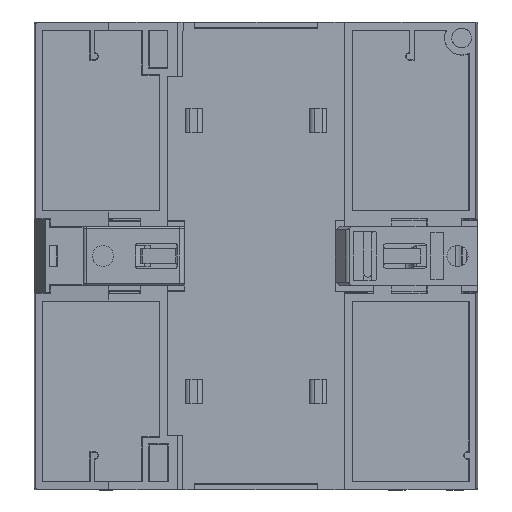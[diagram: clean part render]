
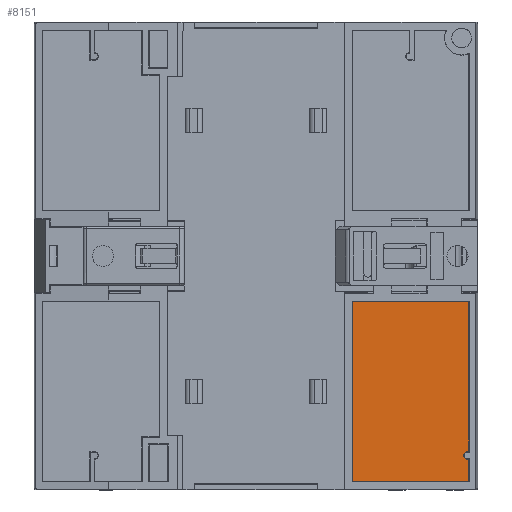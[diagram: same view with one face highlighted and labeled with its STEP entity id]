
A CAD part, front view. The second image highlights one B-rep face of the part: STEP entity #8151.
In plain terms, the highlighted planar face has unit normal (0, -1, 0).
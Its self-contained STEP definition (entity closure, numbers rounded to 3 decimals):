
#2788 = VECTOR ( 'NONE', #4717, 1000. ) ;
#4717 = DIRECTION ( 'NONE',  ( 0., 0., 1. ) ) ;
#4810 = ORIENTED_EDGE ( 'NONE', *, *, #49907, .T. ) ;
#4894 = CARTESIAN_POINT ( 'NONE',  ( 39.798, -5., 43.213 ) ) ;
#6932 = CARTESIAN_POINT ( 'NONE',  ( 39.798, -5., 43.213 ) ) ;
#8151 = ADVANCED_FACE ( 'NONE', ( #30298 ), #40092, .T. ) ;
#9067 = ORIENTED_EDGE ( 'NONE', *, *, #36479, .T. ) ;
#9979 = VECTOR ( 'NONE', #61761, 1000. ) ;
#10788 = VERTEX_POINT ( 'NONE', #20383 ) ;
#12640 = CARTESIAN_POINT ( 'NONE',  ( 40.377, -5., 42.2 ) ) ;
#12667 = VERTEX_POINT ( 'NONE', #6932 ) ;
#13796 = EDGE_CURVE ( 'NONE', #51523, #25426, #67061, .T. ) ;
#13927 = EDGE_CURVE ( 'NONE', #10788, #99461, #80877, .T. ) ;
#15451 = EDGE_LOOP ( 'NONE', ( #4810, #91255, #61237, #101940, #70162, #9067, #21930 ) ) ;
#19013 = EDGE_CURVE ( 'NONE', #99461, #51523, #74240, .T. ) ;
#20142 = CARTESIAN_POINT ( 'NONE',  ( 41.229, -5., 42.735 ) ) ;
#20176 = CARTESIAN_POINT ( 'NONE',  ( 39.714, -5., 43.213 ) ) ;
#20383 = CARTESIAN_POINT ( 'NONE',  ( 9.2, -5., 43.213 ) ) ;
#21930 = ORIENTED_EDGE ( 'NONE', *, *, #59822, .T. ) ;
#24785 = LINE ( 'NONE', #86963, #43642 ) ;
#25426 = VERTEX_POINT ( 'NONE', #52452 ) ;
#26318 = CARTESIAN_POINT ( 'NONE',  ( 41.202, -5., 43.213 ) ) ;
#28225 = CARTESIAN_POINT ( 'NONE',  ( 41.046, -5., 42.422 ) ) ;
#28823 = CARTESIAN_POINT ( 'NONE',  ( 40.261, -5., 42.229 ) ) ;
#30298 = FACE_OUTER_BOUND ( 'NONE', #15451, .T. ) ;
#32010 = CARTESIAN_POINT ( 'NONE',  ( 40.5, -5., 42.2 ) ) ;
#36335 = CARTESIAN_POINT ( 'NONE',  ( 40.739, -5., 42.229 ) ) ;
#36479 = EDGE_CURVE ( 'NONE', #25426, #47575, #36605, .T. ) ;
#36605 = LINE ( 'NONE', #20176, #55446 ) ;
#36915 = CARTESIAN_POINT ( 'NONE',  ( 39.954, -5., 42.422 ) ) ;
#37256 = VERTEX_POINT ( 'NONE', #32010 ) ;
#40092 = PLANE ( 'NONE',  #54402 ) ;
#43483 = B_SPLINE_CURVE_WITH_KNOTS ( 'NONE', 3,
 ( #67581, #12640, #28823, #85125, #36915, #93266, #44979, #101398, #53074, #4894 ),
 .UNSPECIFIED., .F., .F.,
 ( 4, 2, 2, 2, 4 ),
 ( 0., 0.25, 0.5, 0.75, 1. ),
 .UNSPECIFIED. ) ;
#43642 = VECTOR ( 'NONE', #95115, 1000. ) ;
#44056 = CARTESIAN_POINT ( 'NONE',  ( 41.245, -5., 43.098 ) ) ;
#44388 = CARTESIAN_POINT ( 'NONE',  ( 40.5, -5., 42.2 ) ) ;
#44433 = DIRECTION ( 'NONE',  ( -1., 0., 0. ) ) ;
#44979 = CARTESIAN_POINT ( 'NONE',  ( 39.771, -5., 42.735 ) ) ;
#47575 = VERTEX_POINT ( 'NONE', #26318 ) ;
#49907 = EDGE_CURVE ( 'NONE', #37256, #12667, #43483, .T. ) ;
#51192 = B_SPLINE_CURVE_WITH_KNOTS ( 'NONE', 3,
 ( #84209, #44056, #68366, #20142, #76465, #28225, #84550, #36335, #92661, #44388 ),
 .UNSPECIFIED., .F., .F.,
 ( 4, 2, 2, 2, 4 ),
 ( 0., 0.25, 0.5, 0.75, 1. ),
 .UNSPECIFIED. ) ;
#51523 = VERTEX_POINT ( 'NONE', #80716 ) ;
#52452 = CARTESIAN_POINT ( 'NONE',  ( 45.8, -5., 43.213 ) ) ;
#53074 = CARTESIAN_POINT ( 'NONE',  ( 39.754, -5., 43.097 ) ) ;
#53622 = CARTESIAN_POINT ( 'NONE',  ( 35.538, -5., 19.6 ) ) ;
#54402 = AXIS2_PLACEMENT_3D ( 'NONE', #96465, #104570, #56270 ) ;
#55446 = VECTOR ( 'NONE', #44433, 1000. ) ;
#56270 = DIRECTION ( 'NONE',  ( 0., 0., -1. ) ) ;
#59822 = EDGE_CURVE ( 'NONE', #47575, #37256, #51192, .T. ) ;
#61000 = CARTESIAN_POINT ( 'NONE',  ( 45.8, -5., 44.701 ) ) ;
#61237 = ORIENTED_EDGE ( 'NONE', *, *, #13927, .T. ) ;
#61481 = CARTESIAN_POINT ( 'NONE',  ( 9.2, -5., 19.6 ) ) ;
#61761 = DIRECTION ( 'NONE',  ( 1., 0., 0. ) ) ;
#62408 = DIRECTION ( 'NONE',  ( 0., 0., -1. ) ) ;
#67061 = LINE ( 'NONE', #61000, #2788 ) ;
#67581 = CARTESIAN_POINT ( 'NONE',  ( 40.5, -5., 42.2 ) ) ;
#68366 = CARTESIAN_POINT ( 'NONE',  ( 41.259, -5., 42.979 ) ) ;
#70162 = ORIENTED_EDGE ( 'NONE', *, *, #13796, .T. ) ;
#74240 = LINE ( 'NONE', #53622, #9979 ) ;
#75862 = VECTOR ( 'NONE', #62408, 1000. ) ;
#76465 = CARTESIAN_POINT ( 'NONE',  ( 41.186, -5., 42.623 ) ) ;
#80716 = CARTESIAN_POINT ( 'NONE',  ( 45.8, -5., 19.6 ) ) ;
#80877 = LINE ( 'NONE', #86702, #75862 ) ;
#84209 = CARTESIAN_POINT ( 'NONE',  ( 41.202, -5., 43.213 ) ) ;
#84550 = CARTESIAN_POINT ( 'NONE',  ( 40.957, -5., 42.343 ) ) ;
#84960 = EDGE_CURVE ( 'NONE', #12667, #10788, #24785, .T. ) ;
#85125 = CARTESIAN_POINT ( 'NONE',  ( 40.044, -5., 42.342 ) ) ;
#86702 = CARTESIAN_POINT ( 'NONE',  ( 9.2, -5., 18.112 ) ) ;
#86963 = CARTESIAN_POINT ( 'NONE',  ( 7.712, -5., 43.213 ) ) ;
#91255 = ORIENTED_EDGE ( 'NONE', *, *, #84960, .T. ) ;
#92661 = CARTESIAN_POINT ( 'NONE',  ( 40.623, -5., 42.2 ) ) ;
#93266 = CARTESIAN_POINT ( 'NONE',  ( 39.814, -5., 42.623 ) ) ;
#95115 = DIRECTION ( 'NONE',  ( -1., 0., 0. ) ) ;
#96465 = CARTESIAN_POINT ( 'NONE',  ( 34.05, -5., 43.213 ) ) ;
#99461 = VERTEX_POINT ( 'NONE', #61481 ) ;
#101398 = CARTESIAN_POINT ( 'NONE',  ( 39.74, -5., 42.979 ) ) ;
#101940 = ORIENTED_EDGE ( 'NONE', *, *, #19013, .T. ) ;
#104570 = DIRECTION ( 'NONE',  ( 0., -1., 0. ) ) ;
